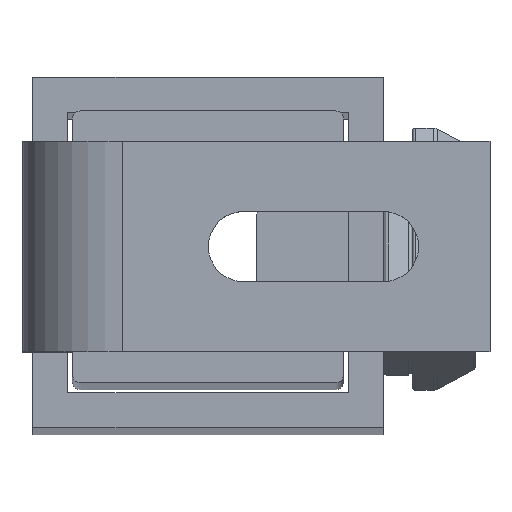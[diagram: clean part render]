
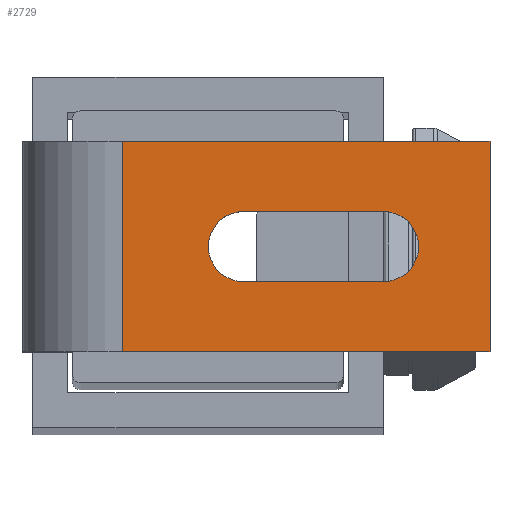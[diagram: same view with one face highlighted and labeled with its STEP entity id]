
A CAD part, top view. The second image highlights one B-rep face of the part: STEP entity #2729.
In plain terms, the highlighted planar face has unit normal (0, 0, 1) as drawn and (0, 0, -1) by its records, which use the part's own axes.
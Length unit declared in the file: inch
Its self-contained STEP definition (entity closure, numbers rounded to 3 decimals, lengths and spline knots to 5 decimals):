
#2312=DIRECTION('',(0.,-1.,0.));
#2313=VECTOR('',#2312,1.312);
#2314=CARTESIAN_POINT('',(-0.375,1.67,-1.66));
#2315=LINE('',#2314,#2313);
#2374=DIRECTION('',(0.,1.,0.));
#2375=VECTOR('',#2374,1.312);
#2376=CARTESIAN_POINT('',(0.375,0.358,-1.66));
#2377=LINE('',#2376,#2375);
#2408=DIRECTION('',(-1.,0.,0.));
#2409=VECTOR('',#2408,0.75);
#2410=CARTESIAN_POINT('',(0.375,1.67,-1.66));
#2411=LINE('',#2410,#2409);
#2416=DIRECTION('',(0.,1.,0.));
#2417=VECTOR('',#2416,0.5);
#2418=CARTESIAN_POINT('',(0.125,0.79,-1.66));
#2419=LINE('',#2418,#2417);
#2420=CARTESIAN_POINT('',(0.,0.79,-1.66));
#2421=DIRECTION('',(0.,0.,1.));
#2422=DIRECTION('',(-1.,0.,0.));
#2423=AXIS2_PLACEMENT_3D('',#2420,#2421,#2422);
#2425=DIRECTION('',(0.,-1.,0.));
#2426=VECTOR('',#2425,0.5);
#2427=CARTESIAN_POINT('',(-0.125,1.29,-1.66));
#2428=LINE('',#2427,#2426);
#2429=CARTESIAN_POINT('',(0.,1.29,-1.66));
#2430=DIRECTION('',(0.,0.,1.));
#2431=DIRECTION('',(1.,0.,0.));
#2432=AXIS2_PLACEMENT_3D('',#2429,#2430,#2431);
#2438=DIRECTION('',(1.,0.,0.));
#2439=VECTOR('',#2438,0.75);
#2440=CARTESIAN_POINT('',(-0.375,0.358,-1.66));
#2441=LINE('',#2440,#2439);
#2520=CARTESIAN_POINT('',(0.125,0.79,-1.66));
#2521=CARTESIAN_POINT('',(0.125,1.29,-1.66));
#2522=VERTEX_POINT('',#2520);
#2523=VERTEX_POINT('',#2521);
#2524=CARTESIAN_POINT('',(-0.375,0.358,-1.66));
#2526=VERTEX_POINT('',#2524);
#2532=CARTESIAN_POINT('',(0.375,0.358,-1.66));
#2534=VERTEX_POINT('',#2532);
#2542=CARTESIAN_POINT('',(-0.125,0.79,-1.66));
#2543=VERTEX_POINT('',#2542);
#2546=CARTESIAN_POINT('',(-0.125,1.29,-1.66));
#2547=VERTEX_POINT('',#2546);
#2554=CARTESIAN_POINT('',(-0.375,1.67,-1.66));
#2555=VERTEX_POINT('',#2554);
#2556=CARTESIAN_POINT('',(0.375,1.67,-1.66));
#2557=VERTEX_POINT('',#2556);
#2707=CARTESIAN_POINT('',(0.,0.,-1.66));
#2708=DIRECTION('',(0.,0.,1.));
#2709=DIRECTION('',(0.,-1.,0.));
#2710=AXIS2_PLACEMENT_3D('',#2707,#2708,#2709);
#2711=PLANE('',#2710);
#2713=ORIENTED_EDGE('',*,*,#2712,.T.);
#2714=ORIENTED_EDGE('',*,*,#2666,.T.);
#2715=ORIENTED_EDGE('',*,*,#2701,.T.);
#2716=ORIENTED_EDGE('',*,*,#2567,.T.);
#2717=EDGE_LOOP('',(#2713,#2714,#2715,#2716));
#2718=FACE_OUTER_BOUND('',#2717,.F.);
#2720=ORIENTED_EDGE('',*,*,#2719,.F.);
#2722=ORIENTED_EDGE('',*,*,#2721,.F.);
#2724=ORIENTED_EDGE('',*,*,#2723,.F.);
#2726=ORIENTED_EDGE('',*,*,#2725,.F.);
#2727=EDGE_LOOP('',(#2720,#2722,#2724,#2726));
#2728=FACE_BOUND('',#2727,.F.);
#2424=CIRCLE('',#2423,0.125);
#2433=CIRCLE('',#2432,0.125);
#2567=EDGE_CURVE('',#2555,#2526,#2315,.T.);
#2666=EDGE_CURVE('',#2534,#2557,#2377,.T.);
#2701=EDGE_CURVE('',#2557,#2555,#2411,.T.);
#2712=EDGE_CURVE('',#2526,#2534,#2441,.T.);
#2719=EDGE_CURVE('',#2522,#2523,#2419,.T.);
#2721=EDGE_CURVE('',#2543,#2522,#2424,.T.);
#2723=EDGE_CURVE('',#2547,#2543,#2428,.T.);
#2725=EDGE_CURVE('',#2523,#2547,#2433,.T.);
#2729=ADVANCED_FACE('',(#2718,#2728),#2711,.F.);
